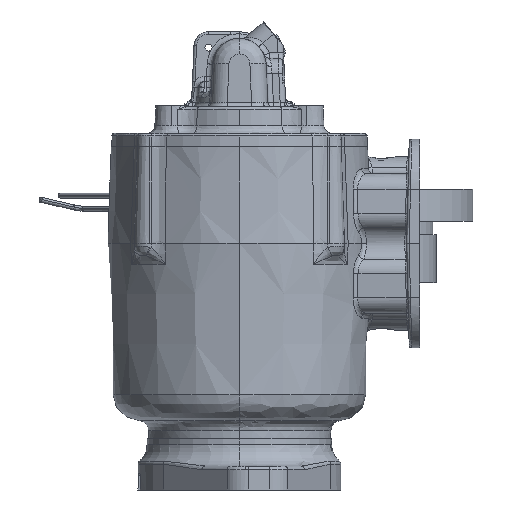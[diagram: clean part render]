
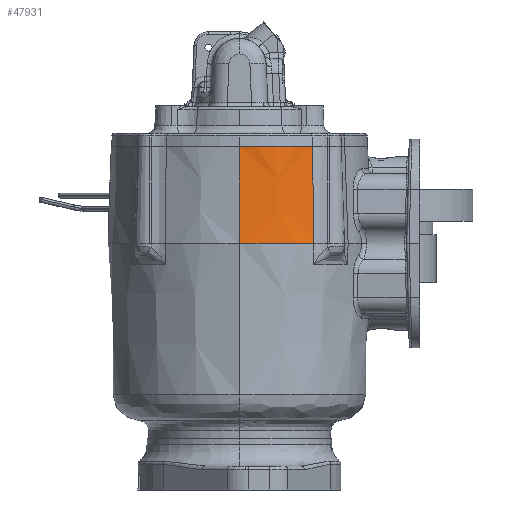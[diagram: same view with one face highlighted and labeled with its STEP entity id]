
A CAD part, left-side view. The second image highlights one B-rep face of the part: STEP entity #47931.
In plain terms, the highlighted conical face has half-angle 2 degrees and reference radius 78.232 mm.
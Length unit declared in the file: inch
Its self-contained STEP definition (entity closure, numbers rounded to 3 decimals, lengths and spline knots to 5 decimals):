
#3820 = CARTESIAN_POINT ( 'NONE',  ( -3.5037, 0.27743, 2.61184 ) ) ;
#5709 = DIRECTION ( 'NONE',  ( -1., 0., 0. ) ) ;
#10246 = CARTESIAN_POINT ( 'NONE',  ( -3.46935, 0.13711, 1.12546 ) ) ;
#16891 = AXIS2_PLACEMENT_3D ( 'NONE', #30352, #115936, #5709 ) ;
#30352 = CARTESIAN_POINT ( 'NONE',  ( -0.95267, 1.86514, 0.34734 ) ) ;
#31159 = EDGE_CURVE ( 'NONE', #97997, #53829, #102259, .T. ) ;
#33366 = CARTESIAN_POINT ( 'NONE',  ( -3.95359, 1.86514, 2.61184 ) ) ;
#34859 = CARTESIAN_POINT ( 'NONE',  ( -3.41704, 0.15272, 2.61184 ) ) ;
#40772 = CARTESIAN_POINT ( 'NONE',  ( -3.71447, 0.6815, 2.61184 ) ) ;
#41301 = DIRECTION ( 'NONE',  ( 0., 0., -1. ) ) ;
#42798 = B_SPLINE_CURVE_WITH_KNOTS ( 'NONE', 3,
 ( #89381, #3820, #114042, #40772, #126347, #53067, #138705, #65373, #151013, #77680 ),
 .UNSPECIFIED., .F., .F.,
 ( 4, 2, 2, 2, 4 ),
 ( 0., 0.25, 0.5, 0.75, 1. ),
 .UNSPECIFIED. ) ;
#45864 = VERTEX_POINT ( 'NONE', #78734 ) ;
#46162 = VECTOR ( 'NONE', #68145, 39.37008 ) ;
#47931 = ADVANCED_FACE ( 'NONE', ( #65172 ), #155160, .T. ) ;
#51433 = CIRCLE ( 'NONE', #64709, 3.08 ) ;
#53067 = CARTESIAN_POINT ( 'NONE',  ( -3.86172, 1.11281, 2.61184 ) ) ;
#53829 = VERTEX_POINT ( 'NONE', #129513 ) ;
#55828 = CARTESIAN_POINT ( 'NONE',  ( -4.03267, 1.86514, 0.34734 ) ) ;
#64709 = AXIS2_PLACEMENT_3D ( 'NONE', #114561, #41301, #126886 ) ;
#65172 = FACE_OUTER_BOUND ( 'NONE', #130394, .T. ) ;
#65373 = CARTESIAN_POINT ( 'NONE',  ( -3.94204, 1.56141, 2.61184 ) ) ;
#68145 = DIRECTION ( 'NONE',  ( -0.035, 0., -0.999 ) ) ;
#70378 = EDGE_CURVE ( 'NONE', #53829, #126988, #42798, .T. ) ;
#74120 = EDGE_CURVE ( 'NONE', #126988, #45864, #78680, .T. ) ;
#77680 = CARTESIAN_POINT ( 'NONE',  ( -3.95359, 1.86514, 2.61184 ) ) ;
#78680 = LINE ( 'NONE', #55828, #46162 ) ;
#78734 = CARTESIAN_POINT ( 'NONE',  ( -4.03267, 1.86514, 0.34734 ) ) ;
#83542 = CARTESIAN_POINT ( 'NONE',  ( -3.44285, 0.14509, 1.88029 ) ) ;
#85476 = ORIENTED_EDGE ( 'NONE', *, *, #70378, .T. ) ;
#89381 = CARTESIAN_POINT ( 'NONE',  ( -3.41704, 0.15272, 2.61184 ) ) ;
#97997 = VERTEX_POINT ( 'NONE', #123245 ) ;
#102259 = B_SPLINE_CURVE_WITH_KNOTS ( 'NONE', 3,
 ( #156875, #10246, #83542, #34859 ),
 .UNSPECIFIED., .F., .F.,
 ( 4, 4 ),
 ( 0., 1. ),
 .UNSPECIFIED. ) ;
#106677 = ORIENTED_EDGE ( 'NONE', *, *, #31159, .T. ) ;
#114042 = CARTESIAN_POINT ( 'NONE',  ( -3.58087, 0.40873, 2.61184 ) ) ;
#114561 = CARTESIAN_POINT ( 'NONE',  ( -0.95267, 1.86514, 0.34734 ) ) ;
#115936 = DIRECTION ( 'NONE',  ( 0., 0., -1. ) ) ;
#123245 = CARTESIAN_POINT ( 'NONE',  ( -3.49656, 0.12877, 0.34734 ) ) ;
#126347 = CARTESIAN_POINT ( 'NONE',  ( -3.7709, 0.82297, 2.61184 ) ) ;
#126886 = DIRECTION ( 'NONE',  ( 1., 0., 0. ) ) ;
#126988 = VERTEX_POINT ( 'NONE', #33366 ) ;
#129513 = CARTESIAN_POINT ( 'NONE',  ( -3.41704, 0.15272, 2.61184 ) ) ;
#130394 = EDGE_LOOP ( 'NONE', ( #85476, #154762, #157991, #106677 ) ) ;
#138100 = EDGE_CURVE ( 'NONE', #97997, #45864, #51433, .T. ) ;
#138705 = CARTESIAN_POINT ( 'NONE',  ( -3.8961, 1.26118, 2.61184 ) ) ;
#151013 = CARTESIAN_POINT ( 'NONE',  ( -3.95359, 1.71328, 2.61184 ) ) ;
#154762 = ORIENTED_EDGE ( 'NONE', *, *, #74120, .T. ) ;
#155160 = CONICAL_SURFACE ( 'NONE', #16891, 3.08, 0.035 ) ;
#156875 = CARTESIAN_POINT ( 'NONE',  ( -3.49656, 0.12877, 0.34734 ) ) ;
#157991 = ORIENTED_EDGE ( 'NONE', *, *, #138100, .F. ) ;
